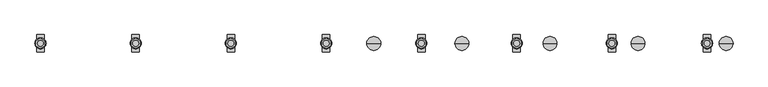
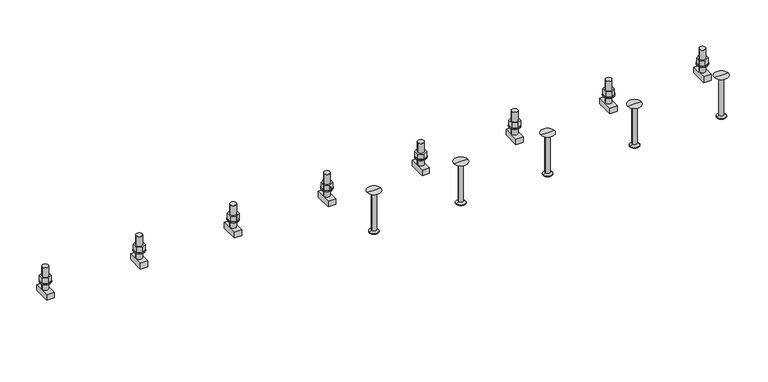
"""IFC4 building model written with IfcOpenShell, lengths in millimetres: fastener geometry, JTA-W JORDAHL® AnchorChannels : JTA-W L=3000 mm."""

from ifc_helpers import new_model, si_unit, point, frame, frame_2d, origin, place, context, project, spatial, polyline, circle_curve, trimmed, segment, composite_curve, outline, extrude, source, transform, mapped, element, save
from ifc_brep_helpers import plane_surface, cylinder_surface, revolved_surface, advanced_brep


def fastener_6b79ad14(model_context):
    return source(origin(), model_context, "Body", "SolidModel", [
        extrude(outline(polyline([(2608.3333333, 17.3205081), (2623.3333333, 8.660254), (2623.3333333, -8.660254), (2608.3333333, -17.3205081), (2593.3333333, -8.660254), (2593.3333333, 8.660254), (2608.3333333, 17.3205081)]), holes=[composite_curve([segment(trimmed(circle_curve(frame_2d((2608.3333333, 0.0)), 10.0), [point((2598.3333333, 0.0))], [point((2618.3333333, 0.0))], True, "CARTESIAN"), True, "CONTINUOUS"), segment(trimmed(circle_curve(frame_2d((2608.3333333, 0.0)), 10.0), [point((2618.3333333, 0.0))], [point((2598.3333333, 0.0))], True, "CARTESIAN"), True, "CONTINUOUS")], self_intersect=False)]), frame((0.0, 0.0, 18.0), z_axis=(0.0, 0.0, 1.0), x_axis=(1.0, 0.0, 0.0)), (0.0, 0.0, 1.0), 18.0),
        extrude(outline(composite_curve([segment(trimmed(circle_curve(frame_2d((2608.3333333, 0.0)), 18.5), [point((2589.8333333, 0.0))], [point((2626.8333333, 0.0))], False, "CARTESIAN"), True, "CONTINUOUS"), segment(trimmed(circle_curve(frame_2d((2608.3333333, 0.0)), 18.5), [point((2626.8333333, 0.0))], [point((2589.8333333, 0.0))], False, "CARTESIAN"), True, "CONTINUOUS")], self_intersect=False), holes=[composite_curve([segment(trimmed(circle_curve(frame_2d((2608.3333333, 0.0)), 10.5), [point((2597.8333333, 0.0))], [point((2618.8333333, 0.0))], True, "CARTESIAN"), True, "CONTINUOUS"), segment(trimmed(circle_curve(frame_2d((2608.3333333, 0.0)), 10.5), [point((2618.8333333, 0.0))], [point((2597.8333333, 0.0))], True, "CARTESIAN"), True, "CONTINUOUS")], self_intersect=False)]), frame((0.0, 0.0, 15.0), z_axis=(0.0, 0.0, 1.0), x_axis=(1.0, 0.0, 0.0)), (0.0, 0.0, 1.0), 3.0),
        extrude(outline(polyline([(2291.6666667, 17.3205081), (2306.6666667, 8.660254), (2306.6666667, -8.660254), (2291.6666667, -17.3205081), (2276.6666667, -8.660254), (2276.6666667, 8.660254), (2291.6666667, 17.3205081)]), holes=[composite_curve([segment(trimmed(circle_curve(frame_2d((2291.6666667, 0.0)), 10.0), [point((2281.6666667, 0.0))], [point((2301.6666667, 0.0))], True, "CARTESIAN"), True, "CONTINUOUS"), segment(trimmed(circle_curve(frame_2d((2291.6666667, 0.0)), 10.0), [point((2301.6666667, 0.0))], [point((2281.6666667, 0.0))], True, "CARTESIAN"), True, "CONTINUOUS")], self_intersect=False)]), frame((0.0, 0.0, 18.0), z_axis=(0.0, 0.0, 1.0), x_axis=(1.0, 0.0, 0.0)), (0.0, 0.0, 1.0), 18.0),
        extrude(outline(composite_curve([segment(trimmed(circle_curve(frame_2d((2291.6666667, 0.0)), 18.5), [point((2273.1666667, 0.0))], [point((2310.1666667, 0.0))], False, "CARTESIAN"), True, "CONTINUOUS"), segment(trimmed(circle_curve(frame_2d((2291.6666667, 0.0)), 18.5), [point((2310.1666667, 0.0))], [point((2273.1666667, 0.0))], False, "CARTESIAN"), True, "CONTINUOUS")], self_intersect=False), holes=[composite_curve([segment(trimmed(circle_curve(frame_2d((2291.6666667, 0.0)), 10.5), [point((2281.1666667, 0.0))], [point((2302.1666667, 0.0))], True, "CARTESIAN"), True, "CONTINUOUS"), segment(trimmed(circle_curve(frame_2d((2291.6666667, 0.0)), 10.5), [point((2302.1666667, 0.0))], [point((2281.1666667, 0.0))], True, "CARTESIAN"), True, "CONTINUOUS")], self_intersect=False)]), frame((0.0, 0.0, 15.0), z_axis=(0.0, 0.0, 1.0), x_axis=(1.0, 0.0, 0.0)), (0.0, 0.0, 1.0), 3.0),
        extrude(outline(polyline([(1975.0, 17.3205081), (1990.0, 8.660254), (1990.0, -8.660254), (1975.0, -17.3205081), (1960.0, -8.660254), (1960.0, 8.660254), (1975.0, 17.3205081)]), holes=[composite_curve([segment(trimmed(circle_curve(frame_2d((1975.0, 0.0)), 10.0), [point((1965.0, 0.0))], [point((1985.0, 0.0))], True, "CARTESIAN"), True, "CONTINUOUS"), segment(trimmed(circle_curve(frame_2d((1975.0, 0.0)), 10.0), [point((1985.0, 0.0))], [point((1965.0, 0.0))], True, "CARTESIAN"), True, "CONTINUOUS")], self_intersect=False)]), frame((0.0, 0.0, 18.0), z_axis=(0.0, 0.0, 1.0), x_axis=(1.0, 0.0, 0.0)), (0.0, 0.0, 1.0), 18.0),
        extrude(outline(composite_curve([segment(trimmed(circle_curve(frame_2d((1975.0, 0.0)), 18.5), [point((1956.5, 0.0))], [point((1993.5, 0.0))], False, "CARTESIAN"), True, "CONTINUOUS"), segment(trimmed(circle_curve(frame_2d((1975.0, 0.0)), 18.5), [point((1993.5, 0.0))], [point((1956.5, 0.0))], False, "CARTESIAN"), True, "CONTINUOUS")], self_intersect=False), holes=[composite_curve([segment(trimmed(circle_curve(frame_2d((1975.0, 0.0)), 10.5), [point((1964.5, 0.0))], [point((1985.5, 0.0))], True, "CARTESIAN"), True, "CONTINUOUS"), segment(trimmed(circle_curve(frame_2d((1975.0, 0.0)), 10.5), [point((1985.5, 0.0))], [point((1964.5, 0.0))], True, "CARTESIAN"), True, "CONTINUOUS")], self_intersect=False)]), frame((0.0, 0.0, 15.0), z_axis=(0.0, 0.0, 1.0), x_axis=(1.0, 0.0, 0.0)), (0.0, 0.0, 1.0), 3.0),
        extrude(outline(polyline([(1658.3333333, 17.3205081), (1673.3333333, 8.660254), (1673.3333333, -8.660254), (1658.3333333, -17.3205081), (1643.3333333, -8.660254), (1643.3333333, 8.660254), (1658.3333333, 17.3205081)]), holes=[composite_curve([segment(trimmed(circle_curve(frame_2d((1658.3333333, 0.0)), 10.0), [point((1648.3333333, 0.0))], [point((1668.3333333, 0.0))], True, "CARTESIAN"), True, "CONTINUOUS"), segment(trimmed(circle_curve(frame_2d((1658.3333333, 0.0)), 10.0), [point((1668.3333333, 0.0))], [point((1648.3333333, 0.0))], True, "CARTESIAN"), True, "CONTINUOUS")], self_intersect=False)]), frame((0.0, 0.0, 18.0), z_axis=(0.0, 0.0, 1.0), x_axis=(1.0, 0.0, 0.0)), (0.0, 0.0, 1.0), 18.0),
        extrude(outline(composite_curve([segment(trimmed(circle_curve(frame_2d((1658.3333333, 0.0)), 18.5), [point((1639.8333333, 0.0))], [point((1676.8333333, 0.0))], False, "CARTESIAN"), True, "CONTINUOUS"), segment(trimmed(circle_curve(frame_2d((1658.3333333, 0.0)), 18.5), [point((1676.8333333, 0.0))], [point((1639.8333333, 0.0))], False, "CARTESIAN"), True, "CONTINUOUS")], self_intersect=False), holes=[composite_curve([segment(trimmed(circle_curve(frame_2d((1658.3333333, 0.0)), 10.5), [point((1647.8333333, 0.0))], [point((1668.8333333, 0.0))], True, "CARTESIAN"), True, "CONTINUOUS"), segment(trimmed(circle_curve(frame_2d((1658.3333333, 0.0)), 10.5), [point((1668.8333333, 0.0))], [point((1647.8333333, 0.0))], True, "CARTESIAN"), True, "CONTINUOUS")], self_intersect=False)]), frame((0.0, 0.0, 15.0), z_axis=(0.0, 0.0, 1.0), x_axis=(1.0, 0.0, 0.0)), (0.0, 0.0, 1.0), 3.0),
        extrude(outline(polyline([(1341.6666667, 17.3205081), (1356.6666667, 8.660254), (1356.6666667, -8.660254), (1341.6666667, -17.3205081), (1326.6666667, -8.660254), (1326.6666667, 8.660254), (1341.6666667, 17.3205081)]), holes=[composite_curve([segment(trimmed(circle_curve(frame_2d((1341.6666667, 0.0)), 10.0), [point((1331.6666667, 0.0))], [point((1351.6666667, 0.0))], True, "CARTESIAN"), True, "CONTINUOUS"), segment(trimmed(circle_curve(frame_2d((1341.6666667, 0.0)), 10.0), [point((1351.6666667, 0.0))], [point((1331.6666667, 0.0))], True, "CARTESIAN"), True, "CONTINUOUS")], self_intersect=False)]), frame((0.0, 0.0, 18.0), z_axis=(0.0, 0.0, 1.0), x_axis=(1.0, 0.0, 0.0)), (0.0, 0.0, 1.0), 18.0),
        extrude(outline(composite_curve([segment(trimmed(circle_curve(frame_2d((1341.6666667, 0.0)), 18.5), [point((1323.1666667, 0.0))], [point((1360.1666667, 0.0))], False, "CARTESIAN"), True, "CONTINUOUS"), segment(trimmed(circle_curve(frame_2d((1341.6666667, 0.0)), 18.5), [point((1360.1666667, 0.0))], [point((1323.1666667, 0.0))], False, "CARTESIAN"), True, "CONTINUOUS")], self_intersect=False), holes=[composite_curve([segment(trimmed(circle_curve(frame_2d((1341.6666667, 0.0)), 10.5), [point((1331.1666667, 0.0))], [point((1352.1666667, 0.0))], True, "CARTESIAN"), True, "CONTINUOUS"), segment(trimmed(circle_curve(frame_2d((1341.6666667, 0.0)), 10.5), [point((1352.1666667, 0.0))], [point((1331.1666667, 0.0))], True, "CARTESIAN"), True, "CONTINUOUS")], self_intersect=False)]), frame((0.0, 0.0, 15.0), z_axis=(0.0, 0.0, 1.0), x_axis=(1.0, 0.0, 0.0)), (0.0, 0.0, 1.0), 3.0),
        extrude(outline(polyline([(1025.0, 17.3205081), (1040.0, 8.660254), (1040.0, -8.660254), (1025.0, -17.3205081), (1010.0, -8.660254), (1010.0, 8.660254), (1025.0, 17.3205081)]), holes=[composite_curve([segment(trimmed(circle_curve(frame_2d((1025.0, 0.0)), 10.0), [point((1015.0, 0.0))], [point((1035.0, 0.0))], True, "CARTESIAN"), True, "CONTINUOUS"), segment(trimmed(circle_curve(frame_2d((1025.0, 0.0)), 10.0), [point((1035.0, 0.0))], [point((1015.0, 0.0))], True, "CARTESIAN"), True, "CONTINUOUS")], self_intersect=False)]), frame((0.0, 0.0, 18.0), z_axis=(0.0, 0.0, 1.0), x_axis=(1.0, 0.0, 0.0)), (0.0, 0.0, 1.0), 18.0),
        extrude(outline(composite_curve([segment(trimmed(circle_curve(frame_2d((1025.0, 0.0)), 18.5), [point((1006.5, 0.0))], [point((1043.5, 0.0))], False, "CARTESIAN"), True, "CONTINUOUS"), segment(trimmed(circle_curve(frame_2d((1025.0, 0.0)), 18.5), [point((1043.5, 0.0))], [point((1006.5, 0.0))], False, "CARTESIAN"), True, "CONTINUOUS")], self_intersect=False), holes=[composite_curve([segment(trimmed(circle_curve(frame_2d((1025.0, 0.0)), 10.5), [point((1014.5, 0.0))], [point((1035.5, 0.0))], True, "CARTESIAN"), True, "CONTINUOUS"), segment(trimmed(circle_curve(frame_2d((1025.0, 0.0)), 10.5), [point((1035.5, 0.0))], [point((1014.5, 0.0))], True, "CARTESIAN"), True, "CONTINUOUS")], self_intersect=False)]), frame((0.0, 0.0, 15.0), z_axis=(0.0, 0.0, 1.0), x_axis=(1.0, 0.0, 0.0)), (0.0, 0.0, 1.0), 3.0),
        extrude(outline(polyline([(708.3333333, 17.3205081), (723.3333333, 8.660254), (723.3333333, -8.660254), (708.3333333, -17.3205081), (693.3333333, -8.660254), (693.3333333, 8.660254), (708.3333333, 17.3205081)]), holes=[composite_curve([segment(trimmed(circle_curve(frame_2d((708.3333333, 0.0)), 10.0), [point((698.3333333, 0.0))], [point((718.3333333, 0.0))], True, "CARTESIAN"), True, "CONTINUOUS"), segment(trimmed(circle_curve(frame_2d((708.3333333, 0.0)), 10.0), [point((718.3333333, 0.0))], [point((698.3333333, 0.0))], True, "CARTESIAN"), True, "CONTINUOUS")], self_intersect=False)]), frame((0.0, 0.0, 18.0), z_axis=(0.0, 0.0, 1.0), x_axis=(1.0, 0.0, 0.0)), (0.0, 0.0, 1.0), 18.0),
        extrude(outline(composite_curve([segment(trimmed(circle_curve(frame_2d((708.3333333, 0.0)), 18.5), [point((689.8333333, 0.0))], [point((726.8333333, 0.0))], False, "CARTESIAN"), True, "CONTINUOUS"), segment(trimmed(circle_curve(frame_2d((708.3333333, 0.0)), 18.5), [point((726.8333333, 0.0))], [point((689.8333333, 0.0))], False, "CARTESIAN"), True, "CONTINUOUS")], self_intersect=False), holes=[composite_curve([segment(trimmed(circle_curve(frame_2d((708.3333333, 0.0)), 10.5), [point((697.8333333, 0.0))], [point((718.8333333, 0.0))], True, "CARTESIAN"), True, "CONTINUOUS"), segment(trimmed(circle_curve(frame_2d((708.3333333, 0.0)), 10.5), [point((718.8333333, 0.0))], [point((697.8333333, 0.0))], True, "CARTESIAN"), True, "CONTINUOUS")], self_intersect=False)]), frame((0.0, 0.0, 15.0), z_axis=(0.0, 0.0, 1.0), x_axis=(1.0, 0.0, 0.0)), (0.0, 0.0, 1.0), 3.0),
        extrude(outline(polyline([(391.6666667, 17.3205081), (406.6666667, 8.660254), (406.6666667, -8.660254), (391.6666667, -17.3205081), (376.6666667, -8.660254), (376.6666667, 8.660254), (391.6666667, 17.3205081)]), holes=[composite_curve([segment(trimmed(circle_curve(frame_2d((391.6666667, 0.0)), 10.0), [point((381.6666667, 0.0))], [point((401.6666667, 0.0))], True, "CARTESIAN"), True, "CONTINUOUS"), segment(trimmed(circle_curve(frame_2d((391.6666667, 0.0)), 10.0), [point((401.6666667, 0.0))], [point((381.6666667, 0.0))], True, "CARTESIAN"), True, "CONTINUOUS")], self_intersect=False)]), frame((0.0, 0.0, 18.0), z_axis=(0.0, 0.0, 1.0), x_axis=(1.0, 0.0, 0.0)), (0.0, 0.0, 1.0), 18.0),
        extrude(outline(composite_curve([segment(trimmed(circle_curve(frame_2d((391.6666667, 0.0)), 18.5), [point((373.1666667, 0.0))], [point((410.1666667, 0.0))], False, "CARTESIAN"), True, "CONTINUOUS"), segment(trimmed(circle_curve(frame_2d((391.6666667, 0.0)), 18.5), [point((410.1666667, 0.0))], [point((373.1666667, 0.0))], False, "CARTESIAN"), True, "CONTINUOUS")], self_intersect=False), holes=[composite_curve([segment(trimmed(circle_curve(frame_2d((391.6666667, 0.0)), 10.5), [point((381.1666667, 0.0))], [point((402.1666667, 0.0))], True, "CARTESIAN"), True, "CONTINUOUS"), segment(trimmed(circle_curve(frame_2d((391.6666667, 0.0)), 10.5), [point((402.1666667, 0.0))], [point((381.1666667, 0.0))], True, "CARTESIAN"), True, "CONTINUOUS")], self_intersect=False)]), frame((0.0, 0.0, 15.0), z_axis=(0.0, 0.0, 1.0), x_axis=(1.0, 0.0, 0.0)), (0.0, 0.0, 1.0), 3.0),
        advanced_brep(
        [(2620.8333333, 29.0, -10.0), (2620.8333333, -29.0, -10.0), (2620.8333333, -29.0, -30.0), (2620.8333333, 29.0, -30.0), (2595.8333333, 29.0, -10.0), (2595.8333333, 29.0, -30.0), (2595.8333333, -29.0, -30.0), (2595.8333333, -29.0, -10.0), (2618.3333333, 0.0, -10.0), (2598.3333333, 0.0, -10.0), (2598.3333333, 0.0, 70.0), (2618.3333333, 0.0, 70.0)],
        [
            (0, 1),
            (1, 2),
            (2, 3),
            (3, 0),
            (4, 5),
            (5, 6),
            (6, 7),
            (7, 4),
            (0, 4),
            (7, 1),
            (8, 9, circle_curve(frame((2608.3333333, 0.0, -10.0), z_axis=(0.0, 0.0, -1.0), x_axis=(1.0, 0.0, 0.0)), 10.0)),
            (9, 8, circle_curve(frame((2608.3333333, 0.0, -10.0), z_axis=(0.0, 0.0, -1.0), x_axis=(1.0, 0.0, 0.0)), 10.0)),
            (6, 2),
            (5, 3),
            (10, 11, circle_curve(frame((2608.3333333, 0.0, 70.0), z_axis=(0.0, 0.0, 1.0), x_axis=(1.0, 0.0, 0.0)), 10.0)),
            (11, 10, circle_curve(frame((2608.3333333, 0.0, 70.0), z_axis=(0.0, 0.0, 1.0), x_axis=(1.0, 0.0, 0.0)), 10.0)),
            (10, 9),
            (8, 11),
        ],
        [
            plane_surface(frame((2620.8333333, -29.0, -10.0), z_axis=(1.0, 0.0, 0.0), x_axis=(0.0, -1.0, 0.0))),
            plane_surface(frame((2595.8333333, -29.0, -10.0), z_axis=(-1.0, 0.0, 0.0), x_axis=(0.0, 1.0, 0.0))),
            plane_surface(frame((2620.8333333, 29.0, -10.0), z_axis=(0.0, 0.0, 1.0), x_axis=(-1.0, 0.0, 0.0))),
            plane_surface(frame((2620.8333333, -29.0, -10.0), z_axis=(0.0, -1.0, 0.0), x_axis=(-1.0, 0.0, 0.0))),
            plane_surface(frame((2620.8333333, -29.0, -30.0), z_axis=(0.0, 0.0, -1.0), x_axis=(-1.0, 0.0, 0.0))),
            plane_surface(frame((2620.8333333, 29.0, -30.0), z_axis=(0.0, 1.0, 0.0), x_axis=(-1.0, 0.0, 0.0))),
            plane_surface(frame((2618.3333333, 0.0, 70.0), z_axis=(0.0, 0.0, 1.0), x_axis=(0.0, 1.0, 0.0))),
            cylinder_surface(frame((2608.3333333, 0.0, -10.0), z_axis=(0.0, 0.0, 1.0), x_axis=(1.0, 0.0, 0.0)), 10.0),
        ],
        [
            (0, [[1, 2, 3, 4]]),
            (1, [[5, 6, 7, 8]]),
            (2, [[-1, 9, -8, 10], [11, 12]]),
            (3, [[-2, -10, -7, 13]]),
            (4, [[-3, -13, -6, 14]]),
            (5, [[-4, -14, -5, -9]]),
            (6, [[15, 16]]),
            (7, [[-15, 17, -11, 18]]),
            (7, [[-16, -18, -12, -17]]),
        ],
    ),
        advanced_brep(
        [(2304.1666667, 29.0, -10.0), (2304.1666667, -29.0, -10.0), (2304.1666667, -29.0, -30.0), (2304.1666667, 29.0, -30.0), (2279.1666667, 29.0, -10.0), (2279.1666667, 29.0, -30.0), (2279.1666667, -29.0, -30.0), (2279.1666667, -29.0, -10.0), (2301.6666667, 0.0, -10.0), (2281.6666667, 0.0, -10.0), (2281.6666667, 0.0, 70.0), (2301.6666667, 0.0, 70.0)],
        [
            (0, 1),
            (1, 2),
            (2, 3),
            (3, 0),
            (4, 5),
            (5, 6),
            (6, 7),
            (7, 4),
            (0, 4),
            (7, 1),
            (8, 9, circle_curve(frame((2291.6666667, 0.0, -10.0), z_axis=(0.0, 0.0, -1.0), x_axis=(1.0, 0.0, 0.0)), 10.0)),
            (9, 8, circle_curve(frame((2291.6666667, 0.0, -10.0), z_axis=(0.0, 0.0, -1.0), x_axis=(1.0, 0.0, 0.0)), 10.0)),
            (6, 2),
            (5, 3),
            (10, 11, circle_curve(frame((2291.6666667, 0.0, 70.0), z_axis=(0.0, 0.0, 1.0), x_axis=(1.0, 0.0, 0.0)), 10.0)),
            (11, 10, circle_curve(frame((2291.6666667, 0.0, 70.0), z_axis=(0.0, 0.0, 1.0), x_axis=(1.0, 0.0, 0.0)), 10.0)),
            (10, 9),
            (8, 11),
        ],
        [
            plane_surface(frame((2304.1666667, -29.0, -10.0), z_axis=(1.0, 0.0, 0.0), x_axis=(0.0, -1.0, 0.0))),
            plane_surface(frame((2279.1666667, -29.0, -10.0), z_axis=(-1.0, 0.0, 0.0), x_axis=(0.0, 1.0, 0.0))),
            plane_surface(frame((2304.1666667, 29.0, -10.0), z_axis=(0.0, 0.0, 1.0), x_axis=(-1.0, 0.0, 0.0))),
            plane_surface(frame((2304.1666667, -29.0, -10.0), z_axis=(0.0, -1.0, 0.0), x_axis=(-1.0, 0.0, 0.0))),
            plane_surface(frame((2304.1666667, -29.0, -30.0), z_axis=(0.0, 0.0, -1.0), x_axis=(-1.0, 0.0, 0.0))),
            plane_surface(frame((2304.1666667, 29.0, -30.0), z_axis=(0.0, 1.0, 0.0), x_axis=(-1.0, 0.0, 0.0))),
            plane_surface(frame((2301.6666667, 0.0, 70.0), z_axis=(0.0, 0.0, 1.0), x_axis=(0.0, 1.0, 0.0))),
            cylinder_surface(frame((2291.6666667, 0.0, -10.0), z_axis=(0.0, 0.0, 1.0), x_axis=(1.0, 0.0, 0.0)), 10.0),
        ],
        [
            (0, [[1, 2, 3, 4]]),
            (1, [[5, 6, 7, 8]]),
            (2, [[-1, 9, -8, 10], [11, 12]]),
            (3, [[-2, -10, -7, 13]]),
            (4, [[-3, -13, -6, 14]]),
            (5, [[-4, -14, -5, -9]]),
            (6, [[15, 16]]),
            (7, [[-15, 17, -11, 18]]),
            (7, [[-16, -18, -12, -17]]),
        ],
    ),
        advanced_brep(
        [(1987.5, 29.0, -10.0), (1987.5, -29.0, -10.0), (1987.5, -29.0, -30.0), (1987.5, 29.0, -30.0), (1962.5, 29.0, -10.0), (1962.5, 29.0, -30.0), (1962.5, -29.0, -30.0), (1962.5, -29.0, -10.0), (1985.0, 0.0, -10.0), (1965.0, 0.0, -10.0), (1965.0, 0.0, 70.0), (1985.0, 0.0, 70.0)],
        [
            (0, 1),
            (1, 2),
            (2, 3),
            (3, 0),
            (4, 5),
            (5, 6),
            (6, 7),
            (7, 4),
            (0, 4),
            (7, 1),
            (8, 9, circle_curve(frame((1975.0, 0.0, -10.0), z_axis=(0.0, 0.0, -1.0), x_axis=(1.0, 0.0, 0.0)), 10.0)),
            (9, 8, circle_curve(frame((1975.0, 0.0, -10.0), z_axis=(0.0, 0.0, -1.0), x_axis=(1.0, 0.0, 0.0)), 10.0)),
            (6, 2),
            (5, 3),
            (10, 11, circle_curve(frame((1975.0, 0.0, 70.0), z_axis=(0.0, 0.0, 1.0), x_axis=(1.0, 0.0, 0.0)), 10.0)),
            (11, 10, circle_curve(frame((1975.0, 0.0, 70.0), z_axis=(0.0, 0.0, 1.0), x_axis=(1.0, 0.0, 0.0)), 10.0)),
            (10, 9),
            (8, 11),
        ],
        [
            plane_surface(frame((1987.5, -29.0, -10.0), z_axis=(1.0, 0.0, 0.0), x_axis=(0.0, -1.0, 0.0))),
            plane_surface(frame((1962.5, -29.0, -10.0), z_axis=(-1.0, 0.0, 0.0), x_axis=(0.0, 1.0, 0.0))),
            plane_surface(frame((1987.5, 29.0, -10.0), z_axis=(0.0, 0.0, 1.0), x_axis=(-1.0, 0.0, 0.0))),
            plane_surface(frame((1987.5, -29.0, -10.0), z_axis=(0.0, -1.0, 0.0), x_axis=(-1.0, 0.0, 0.0))),
            plane_surface(frame((1987.5, -29.0, -30.0), z_axis=(0.0, 0.0, -1.0), x_axis=(-1.0, 0.0, 0.0))),
            plane_surface(frame((1987.5, 29.0, -30.0), z_axis=(0.0, 1.0, 0.0), x_axis=(-1.0, 0.0, 0.0))),
            plane_surface(frame((1985.0, 0.0, 70.0), z_axis=(0.0, 0.0, 1.0), x_axis=(0.0, 1.0, 0.0))),
            cylinder_surface(frame((1975.0, 0.0, -10.0), z_axis=(0.0, 0.0, 1.0), x_axis=(1.0, 0.0, 0.0)), 10.0),
        ],
        [
            (0, [[1, 2, 3, 4]]),
            (1, [[5, 6, 7, 8]]),
            (2, [[-1, 9, -8, 10], [11, 12]]),
            (3, [[-2, -10, -7, 13]]),
            (4, [[-3, -13, -6, 14]]),
            (5, [[-4, -14, -5, -9]]),
            (6, [[15, 16]]),
            (7, [[-15, 17, -11, 18]]),
            (7, [[-16, -18, -12, -17]]),
        ],
    ),
        advanced_brep(
        [(1670.8333333, 29.0, -10.0), (1670.8333333, -29.0, -10.0), (1670.8333333, -29.0, -30.0), (1670.8333333, 29.0, -30.0), (1645.8333333, 29.0, -10.0), (1645.8333333, 29.0, -30.0), (1645.8333333, -29.0, -30.0), (1645.8333333, -29.0, -10.0), (1668.3333333, 0.0, -10.0), (1648.3333333, 0.0, -10.0), (1648.3333333, 0.0, 70.0), (1668.3333333, 0.0, 70.0)],
        [
            (0, 1),
            (1, 2),
            (2, 3),
            (3, 0),
            (4, 5),
            (5, 6),
            (6, 7),
            (7, 4),
            (0, 4),
            (7, 1),
            (8, 9, circle_curve(frame((1658.3333333, 0.0, -10.0), z_axis=(0.0, 0.0, -1.0), x_axis=(1.0, 0.0, 0.0)), 10.0)),
            (9, 8, circle_curve(frame((1658.3333333, 0.0, -10.0), z_axis=(0.0, 0.0, -1.0), x_axis=(1.0, 0.0, 0.0)), 10.0)),
            (6, 2),
            (5, 3),
            (10, 11, circle_curve(frame((1658.3333333, 0.0, 70.0), z_axis=(0.0, 0.0, 1.0), x_axis=(1.0, 0.0, 0.0)), 10.0)),
            (11, 10, circle_curve(frame((1658.3333333, 0.0, 70.0), z_axis=(0.0, 0.0, 1.0), x_axis=(1.0, 0.0, 0.0)), 10.0)),
            (10, 9),
            (8, 11),
        ],
        [
            plane_surface(frame((1670.8333333, -29.0, -10.0), z_axis=(1.0, 0.0, 0.0), x_axis=(0.0, -1.0, 0.0))),
            plane_surface(frame((1645.8333333, -29.0, -10.0), z_axis=(-1.0, 0.0, 0.0), x_axis=(0.0, 1.0, 0.0))),
            plane_surface(frame((1670.8333333, 29.0, -10.0), z_axis=(0.0, 0.0, 1.0), x_axis=(-1.0, 0.0, 0.0))),
            plane_surface(frame((1670.8333333, -29.0, -10.0), z_axis=(0.0, -1.0, 0.0), x_axis=(-1.0, 0.0, 0.0))),
            plane_surface(frame((1670.8333333, -29.0, -30.0), z_axis=(0.0, 0.0, -1.0), x_axis=(-1.0, 0.0, 0.0))),
            plane_surface(frame((1670.8333333, 29.0, -30.0), z_axis=(0.0, 1.0, 0.0), x_axis=(-1.0, 0.0, 0.0))),
            plane_surface(frame((1668.3333333, 0.0, 70.0), z_axis=(0.0, 0.0, 1.0), x_axis=(0.0, 1.0, 0.0))),
            cylinder_surface(frame((1658.3333333, 0.0, -10.0), z_axis=(0.0, 0.0, 1.0), x_axis=(1.0, 0.0, 0.0)), 10.0),
        ],
        [
            (0, [[1, 2, 3, 4]]),
            (1, [[5, 6, 7, 8]]),
            (2, [[-1, 9, -8, 10], [11, 12]]),
            (3, [[-2, -10, -7, 13]]),
            (4, [[-3, -13, -6, 14]]),
            (5, [[-4, -14, -5, -9]]),
            (6, [[15, 16]]),
            (7, [[-15, 17, -11, 18]]),
            (7, [[-16, -18, -12, -17]]),
        ],
    ),
        advanced_brep(
        [(1354.1666667, 29.0, -10.0), (1354.1666667, -29.0, -10.0), (1354.1666667, -29.0, -30.0), (1354.1666667, 29.0, -30.0), (1329.1666667, 29.0, -10.0), (1329.1666667, 29.0, -30.0), (1329.1666667, -29.0, -30.0), (1329.1666667, -29.0, -10.0), (1351.6666667, 0.0, -10.0), (1331.6666667, 0.0, -10.0), (1331.6666667, 0.0, 70.0), (1351.6666667, 0.0, 70.0)],
        [
            (0, 1),
            (1, 2),
            (2, 3),
            (3, 0),
            (4, 5),
            (5, 6),
            (6, 7),
            (7, 4),
            (0, 4),
            (7, 1),
            (8, 9, circle_curve(frame((1341.6666667, 0.0, -10.0), z_axis=(0.0, 0.0, -1.0), x_axis=(1.0, 0.0, 0.0)), 10.0)),
            (9, 8, circle_curve(frame((1341.6666667, 0.0, -10.0), z_axis=(0.0, 0.0, -1.0), x_axis=(1.0, 0.0, 0.0)), 10.0)),
            (6, 2),
            (5, 3),
            (10, 11, circle_curve(frame((1341.6666667, 0.0, 70.0), z_axis=(0.0, 0.0, 1.0), x_axis=(1.0, 0.0, 0.0)), 10.0)),
            (11, 10, circle_curve(frame((1341.6666667, 0.0, 70.0), z_axis=(0.0, 0.0, 1.0), x_axis=(1.0, 0.0, 0.0)), 10.0)),
            (10, 9),
            (8, 11),
        ],
        [
            plane_surface(frame((1354.1666667, -29.0, -10.0), z_axis=(1.0, 0.0, 0.0), x_axis=(0.0, -1.0, 0.0))),
            plane_surface(frame((1329.1666667, -29.0, -10.0), z_axis=(-1.0, 0.0, 0.0), x_axis=(0.0, 1.0, 0.0))),
            plane_surface(frame((1354.1666667, 29.0, -10.0), z_axis=(0.0, 0.0, 1.0), x_axis=(-1.0, 0.0, 0.0))),
            plane_surface(frame((1354.1666667, -29.0, -10.0), z_axis=(0.0, -1.0, 0.0), x_axis=(-1.0, 0.0, 0.0))),
            plane_surface(frame((1354.1666667, -29.0, -30.0), z_axis=(0.0, 0.0, -1.0), x_axis=(-1.0, 0.0, 0.0))),
            plane_surface(frame((1354.1666667, 29.0, -30.0), z_axis=(0.0, 1.0, 0.0), x_axis=(-1.0, 0.0, 0.0))),
            plane_surface(frame((1351.6666667, 0.0, 70.0), z_axis=(0.0, 0.0, 1.0), x_axis=(0.0, 1.0, 0.0))),
            cylinder_surface(frame((1341.6666667, 0.0, -10.0), z_axis=(0.0, 0.0, 1.0), x_axis=(1.0, 0.0, 0.0)), 10.0),
        ],
        [
            (0, [[1, 2, 3, 4]]),
            (1, [[5, 6, 7, 8]]),
            (2, [[-1, 9, -8, 10], [11, 12]]),
            (3, [[-2, -10, -7, 13]]),
            (4, [[-3, -13, -6, 14]]),
            (5, [[-4, -14, -5, -9]]),
            (6, [[15, 16]]),
            (7, [[-15, 17, -11, 18]]),
            (7, [[-16, -18, -12, -17]]),
        ],
    ),
        advanced_brep(
        [(1037.5, 29.0, -10.0), (1037.5, -29.0, -10.0), (1037.5, -29.0, -30.0), (1037.5, 29.0, -30.0), (1012.5, 29.0, -10.0), (1012.5, 29.0, -30.0), (1012.5, -29.0, -30.0), (1012.5, -29.0, -10.0), (1035.0, 0.0, -10.0), (1015.0, 0.0, -10.0), (1015.0, 0.0, 70.0), (1035.0, 0.0, 70.0)],
        [
            (0, 1),
            (1, 2),
            (2, 3),
            (3, 0),
            (4, 5),
            (5, 6),
            (6, 7),
            (7, 4),
            (0, 4),
            (7, 1),
            (8, 9, circle_curve(frame((1025.0, 0.0, -10.0), z_axis=(0.0, 0.0, -1.0), x_axis=(1.0, 0.0, 0.0)), 10.0)),
            (9, 8, circle_curve(frame((1025.0, 0.0, -10.0), z_axis=(0.0, 0.0, -1.0), x_axis=(1.0, 0.0, 0.0)), 10.0)),
            (6, 2),
            (5, 3),
            (10, 11, circle_curve(frame((1025.0, 0.0, 70.0), z_axis=(0.0, 0.0, 1.0), x_axis=(1.0, 0.0, 0.0)), 10.0)),
            (11, 10, circle_curve(frame((1025.0, 0.0, 70.0), z_axis=(0.0, 0.0, 1.0), x_axis=(1.0, 0.0, 0.0)), 10.0)),
            (10, 9),
            (8, 11),
        ],
        [
            plane_surface(frame((1037.5, -29.0, -10.0), z_axis=(1.0, 0.0, 0.0), x_axis=(0.0, -1.0, 0.0))),
            plane_surface(frame((1012.5, -29.0, -10.0), z_axis=(-1.0, 0.0, 0.0), x_axis=(0.0, 1.0, 0.0))),
            plane_surface(frame((1037.5, 29.0, -10.0), z_axis=(0.0, 0.0, 1.0), x_axis=(-1.0, 0.0, 0.0))),
            plane_surface(frame((1037.5, -29.0, -10.0), z_axis=(0.0, -1.0, 0.0), x_axis=(-1.0, 0.0, 0.0))),
            plane_surface(frame((1037.5, -29.0, -30.0), z_axis=(0.0, 0.0, -1.0), x_axis=(-1.0, 0.0, 0.0))),
            plane_surface(frame((1037.5, 29.0, -30.0), z_axis=(0.0, 1.0, 0.0), x_axis=(-1.0, 0.0, 0.0))),
            plane_surface(frame((1035.0, 0.0, 70.0), z_axis=(0.0, 0.0, 1.0), x_axis=(0.0, 1.0, 0.0))),
            cylinder_surface(frame((1025.0, 0.0, -10.0), z_axis=(0.0, 0.0, 1.0), x_axis=(1.0, 0.0, 0.0)), 10.0),
        ],
        [
            (0, [[1, 2, 3, 4]]),
            (1, [[5, 6, 7, 8]]),
            (2, [[-1, 9, -8, 10], [11, 12]]),
            (3, [[-2, -10, -7, 13]]),
            (4, [[-3, -13, -6, 14]]),
            (5, [[-4, -14, -5, -9]]),
            (6, [[15, 16]]),
            (7, [[-15, 17, -11, 18]]),
            (7, [[-16, -18, -12, -17]]),
        ],
    ),
        advanced_brep(
        [(720.8333333, 29.0, -10.0), (720.8333333, -29.0, -10.0), (720.8333333, -29.0, -30.0), (720.8333333, 29.0, -30.0), (695.8333333, 29.0, -10.0), (695.8333333, 29.0, -30.0), (695.8333333, -29.0, -30.0), (695.8333333, -29.0, -10.0), (718.3333333, 0.0, -10.0), (698.3333333, 0.0, -10.0), (698.3333333, 0.0, 70.0), (718.3333333, 0.0, 70.0)],
        [
            (0, 1),
            (1, 2),
            (2, 3),
            (3, 0),
            (4, 5),
            (5, 6),
            (6, 7),
            (7, 4),
            (0, 4),
            (7, 1),
            (8, 9, circle_curve(frame((708.3333333, 0.0, -10.0), z_axis=(0.0, 0.0, -1.0), x_axis=(1.0, 0.0, 0.0)), 10.0)),
            (9, 8, circle_curve(frame((708.3333333, 0.0, -10.0), z_axis=(0.0, 0.0, -1.0), x_axis=(1.0, 0.0, 0.0)), 10.0)),
            (6, 2),
            (5, 3),
            (10, 11, circle_curve(frame((708.3333333, 0.0, 70.0), z_axis=(0.0, 0.0, 1.0), x_axis=(1.0, 0.0, 0.0)), 10.0)),
            (11, 10, circle_curve(frame((708.3333333, 0.0, 70.0), z_axis=(0.0, 0.0, 1.0), x_axis=(1.0, 0.0, 0.0)), 10.0)),
            (10, 9),
            (8, 11),
        ],
        [
            plane_surface(frame((720.8333333, -29.0, -10.0), z_axis=(1.0, 0.0, 0.0), x_axis=(0.0, -1.0, 0.0))),
            plane_surface(frame((695.8333333, -29.0, -10.0), z_axis=(-1.0, 0.0, 0.0), x_axis=(0.0, 1.0, 0.0))),
            plane_surface(frame((720.8333333, 29.0, -10.0), z_axis=(0.0, 0.0, 1.0), x_axis=(-1.0, 0.0, 0.0))),
            plane_surface(frame((720.8333333, -29.0, -10.0), z_axis=(0.0, -1.0, 0.0), x_axis=(-1.0, 0.0, 0.0))),
            plane_surface(frame((720.8333333, -29.0, -30.0), z_axis=(0.0, 0.0, -1.0), x_axis=(-1.0, 0.0, 0.0))),
            plane_surface(frame((720.8333333, 29.0, -30.0), z_axis=(0.0, 1.0, 0.0), x_axis=(-1.0, 0.0, 0.0))),
            plane_surface(frame((718.3333333, 0.0, 70.0), z_axis=(0.0, 0.0, 1.0), x_axis=(0.0, 1.0, 0.0))),
            cylinder_surface(frame((708.3333333, 0.0, -10.0), z_axis=(0.0, 0.0, 1.0), x_axis=(1.0, 0.0, 0.0)), 10.0),
        ],
        [
            (0, [[1, 2, 3, 4]]),
            (1, [[5, 6, 7, 8]]),
            (2, [[-1, 9, -8, 10], [11, 12]]),
            (3, [[-2, -10, -7, 13]]),
            (4, [[-3, -13, -6, 14]]),
            (5, [[-4, -14, -5, -9]]),
            (6, [[15, 16]]),
            (7, [[-15, 17, -11, 18]]),
            (7, [[-16, -18, -12, -17]]),
        ],
    ),
        advanced_brep(
        [(404.1666667, 29.0, -10.0), (404.1666667, -29.0, -10.0), (404.1666667, -29.0, -30.0), (404.1666667, 29.0, -30.0), (379.1666667, 29.0, -10.0), (379.1666667, 29.0, -30.0), (379.1666667, -29.0, -30.0), (379.1666667, -29.0, -10.0), (401.6666667, 0.0, -10.0), (381.6666667, 0.0, -10.0), (381.6666667, 0.0, 70.0), (401.6666667, 0.0, 70.0)],
        [
            (0, 1),
            (1, 2),
            (2, 3),
            (3, 0),
            (4, 5),
            (5, 6),
            (6, 7),
            (7, 4),
            (0, 4),
            (7, 1),
            (8, 9, circle_curve(frame((391.6666667, 0.0, -10.0), z_axis=(0.0, 0.0, -1.0), x_axis=(1.0, 0.0, 0.0)), 10.0)),
            (9, 8, circle_curve(frame((391.6666667, 0.0, -10.0), z_axis=(0.0, 0.0, -1.0), x_axis=(1.0, 0.0, 0.0)), 10.0)),
            (6, 2),
            (5, 3),
            (10, 11, circle_curve(frame((391.6666667, 0.0, 70.0), z_axis=(0.0, 0.0, 1.0), x_axis=(1.0, 0.0, 0.0)), 10.0)),
            (11, 10, circle_curve(frame((391.6666667, 0.0, 70.0), z_axis=(0.0, 0.0, 1.0), x_axis=(1.0, 0.0, 0.0)), 10.0)),
            (10, 9),
            (8, 11),
        ],
        [
            plane_surface(frame((404.1666667, -29.0, -10.0), z_axis=(1.0, 0.0, 0.0), x_axis=(0.0, -1.0, 0.0))),
            plane_surface(frame((379.1666667, -29.0, -10.0), z_axis=(-1.0, 0.0, 0.0), x_axis=(0.0, 1.0, 0.0))),
            plane_surface(frame((404.1666667, 29.0, -10.0), z_axis=(0.0, 0.0, 1.0), x_axis=(-1.0, 0.0, 0.0))),
            plane_surface(frame((404.1666667, -29.0, -10.0), z_axis=(0.0, -1.0, 0.0), x_axis=(-1.0, 0.0, 0.0))),
            plane_surface(frame((404.1666667, -29.0, -30.0), z_axis=(0.0, 0.0, -1.0), x_axis=(-1.0, 0.0, 0.0))),
            plane_surface(frame((404.1666667, 29.0, -30.0), z_axis=(0.0, 1.0, 0.0), x_axis=(-1.0, 0.0, 0.0))),
            plane_surface(frame((401.6666667, 0.0, 70.0), z_axis=(0.0, 0.0, 1.0), x_axis=(0.0, 1.0, 0.0))),
            cylinder_surface(frame((391.6666667, 0.0, -10.0), z_axis=(0.0, 0.0, 1.0), x_axis=(1.0, 0.0, 0.0)), 10.0),
        ],
        [
            (0, [[1, 2, 3, 4]]),
            (1, [[5, 6, 7, 8]]),
            (2, [[-1, 9, -8, 10], [11, 12]]),
            (3, [[-2, -10, -7, 13]]),
            (4, [[-3, -13, -6, 14]]),
            (5, [[-4, -14, -5, -9]]),
            (6, [[15, 16]]),
            (7, [[-15, 17, -11, 18]]),
            (7, [[-16, -18, -12, -17]]),
        ],
    ),
        advanced_brep(
        [(2672.0, 0.0, -48.0), (2695.0, 0.0, -48.0), (2649.0, 0.0, -48.0), (2656.5, 0.0, -195.0), (2687.5, 0.0, -195.0), (2672.0, 0.0, -195.0), (2656.5, 0.0, -193.0), (2687.5, 0.0, -193.0), (2664.2, 0.0, -188.5544029), (2679.8, 0.0, -188.5544029), (2664.2, 0.0, -52.0), (2679.8, 0.0, -52.0)],
        [
            (0, 1),
            (1, 2, circle_curve(frame((2672.0, 0.0, -48.0), z_axis=(0.0, 0.0, 1.0), x_axis=(1.0, 0.0, 0.0)), 23.0)),
            (2, 0),
            (2, 1, circle_curve(frame((2672.0, 0.0, -48.0), z_axis=(0.0, 0.0, 1.0), x_axis=(1.0, 0.0, 0.0)), 23.0)),
            (3, 4, circle_curve(frame((2672.0, 0.0, -195.0), z_axis=(0.0, 0.0, -1.0), x_axis=(1.0, 0.0, 0.0)), 15.5)),
            (4, 5),
            (5, 3),
            (4, 3, circle_curve(frame((2672.0, 0.0, -195.0), z_axis=(0.0, 0.0, -1.0), x_axis=(1.0, 0.0, 0.0)), 15.5)),
            (6, 7, circle_curve(frame((2672.0, 0.0, -193.0), z_axis=(0.0, 0.0, -1.0), x_axis=(1.0, 0.0, 0.0)), 15.5)),
            (7, 4),
            (3, 6),
            (7, 6, circle_curve(frame((2672.0, 0.0, -193.0), z_axis=(0.0, 0.0, -1.0), x_axis=(1.0, 0.0, 0.0)), 15.5)),
            (8, 9, circle_curve(frame((2672.0, 0.0, -188.5544029), z_axis=(0.0, 0.0, -1.0), x_axis=(1.0, 0.0, 0.0)), 7.8)),
            (9, 7),
            (6, 8),
            (9, 8, circle_curve(frame((2672.0, 0.0, -188.5544029), z_axis=(0.0, 0.0, -1.0), x_axis=(1.0, 0.0, 0.0)), 7.8)),
            (10, 11, circle_curve(frame((2672.0, 0.0, -52.0), z_axis=(0.0, 0.0, -1.0), x_axis=(1.0, 0.0, 0.0)), 7.8)),
            (11, 9),
            (8, 10),
            (11, 10, circle_curve(frame((2672.0, 0.0, -52.0), z_axis=(0.0, 0.0, -1.0), x_axis=(1.0, 0.0, 0.0)), 7.8)),
            (1, 11),
            (10, 2),
        ],
        [
            plane_surface(frame((2672.0, 0.0, -48.0), z_axis=(0.0, 0.0, 1.0), x_axis=(1.0, 0.0, 0.0))),
            plane_surface(frame((2672.0, 0.0, -195.0), z_axis=(0.0, 0.0, -1.0), x_axis=(1.0, 0.0, 0.0))),
            cylinder_surface(frame((2672.0, 0.0, 2361.3150031), z_axis=(0.0, 0.0, 1.0), x_axis=(1.0, 0.0, 0.0)), 15.5),
            revolved_surface(polyline([(2687.5, 0.0, -193.0), (2679.8, 0.0, -188.5544029)]), (2672.0, 0.0, 2361.3150031), (0.0, 0.0, 1.0)),
            cylinder_surface(frame((2672.0, 0.0, 2361.3150031), z_axis=(0.0, 0.0, 1.0), x_axis=(1.0, 0.0, 0.0)), 7.8),
            revolved_surface(polyline([(2679.8, 0.0, -52.0), (2695.0, 0.0, -48.0)]), (2672.0, 0.0, 2361.3150031), (0.0, 0.0, 1.0)),
        ],
        [
            (0, [[1, 2, 3]]),
            (0, [[-3, 4, -1]]),
            (1, [[5, 6, 7]]),
            (1, [[8, -7, -6]]),
            (2, [[9, 10, -5, 11]]),
            (2, [[12, -11, -8, -10]]),
            (3, [[13, 14, -9, 15]]),
            (3, [[16, -15, -12, -14]]),
            (4, [[17, 18, -13, 19]]),
            (4, [[20, -19, -16, -18]]),
            (5, [[-2, 21, -17, 22]]),
            (5, [[-4, -22, -20, -21]]),
        ],
    ),
        advanced_brep(
        [(2379.0, 0.0, -48.0), (2402.0, 0.0, -48.0), (2356.0, 0.0, -48.0), (2363.5, 0.0, -195.0), (2394.5, 0.0, -195.0), (2379.0, 0.0, -195.0), (2363.5, 0.0, -193.0), (2394.5, 0.0, -193.0), (2371.2, 0.0, -188.5544029), (2386.8, 0.0, -188.5544029), (2371.2, 0.0, -52.0), (2386.8, 0.0, -52.0)],
        [
            (0, 1),
            (1, 2, circle_curve(frame((2379.0, 0.0, -48.0), z_axis=(0.0, 0.0, 1.0), x_axis=(1.0, 0.0, 0.0)), 23.0)),
            (2, 0),
            (2, 1, circle_curve(frame((2379.0, 0.0, -48.0), z_axis=(0.0, 0.0, 1.0), x_axis=(1.0, 0.0, 0.0)), 23.0)),
            (3, 4, circle_curve(frame((2379.0, 0.0, -195.0), z_axis=(0.0, 0.0, -1.0), x_axis=(1.0, 0.0, 0.0)), 15.5)),
            (4, 5),
            (5, 3),
            (4, 3, circle_curve(frame((2379.0, 0.0, -195.0), z_axis=(0.0, 0.0, -1.0), x_axis=(1.0, 0.0, 0.0)), 15.5)),
            (6, 7, circle_curve(frame((2379.0, 0.0, -193.0), z_axis=(0.0, 0.0, -1.0), x_axis=(1.0, 0.0, 0.0)), 15.5)),
            (7, 4),
            (3, 6),
            (7, 6, circle_curve(frame((2379.0, 0.0, -193.0), z_axis=(0.0, 0.0, -1.0), x_axis=(1.0, 0.0, 0.0)), 15.5)),
            (8, 9, circle_curve(frame((2379.0, 0.0, -188.5544029), z_axis=(0.0, 0.0, -1.0), x_axis=(1.0, 0.0, 0.0)), 7.8)),
            (9, 7),
            (6, 8),
            (9, 8, circle_curve(frame((2379.0, 0.0, -188.5544029), z_axis=(0.0, 0.0, -1.0), x_axis=(1.0, 0.0, 0.0)), 7.8)),
            (10, 11, circle_curve(frame((2379.0, 0.0, -52.0), z_axis=(0.0, 0.0, -1.0), x_axis=(1.0, 0.0, 0.0)), 7.8)),
            (11, 9),
            (8, 10),
            (11, 10, circle_curve(frame((2379.0, 0.0, -52.0), z_axis=(0.0, 0.0, -1.0), x_axis=(1.0, 0.0, 0.0)), 7.8)),
            (1, 11),
            (10, 2),
        ],
        [
            plane_surface(frame((2379.0, 0.0, -48.0), z_axis=(0.0, 0.0, 1.0), x_axis=(1.0, 0.0, 0.0))),
            plane_surface(frame((2379.0, 0.0, -195.0), z_axis=(0.0, 0.0, -1.0), x_axis=(1.0, 0.0, 0.0))),
            cylinder_surface(frame((2379.0, 0.0, 2361.3150031), z_axis=(0.0, 0.0, 1.0), x_axis=(1.0, 0.0, 0.0)), 15.5),
            revolved_surface(polyline([(2394.5, 0.0, -193.0), (2386.8, 0.0, -188.5544029)]), (2379.0, 0.0, 2361.3150031), (0.0, 0.0, 1.0)),
            cylinder_surface(frame((2379.0, 0.0, 2361.3150031), z_axis=(0.0, 0.0, 1.0), x_axis=(1.0, 0.0, 0.0)), 7.8),
            revolved_surface(polyline([(2386.8, 0.0, -52.0), (2402.0, 0.0, -48.0)]), (2379.0, 0.0, 2361.3150031), (0.0, 0.0, 1.0)),
        ],
        [
            (0, [[1, 2, 3]]),
            (0, [[-3, 4, -1]]),
            (1, [[5, 6, 7]]),
            (1, [[8, -7, -6]]),
            (2, [[9, 10, -5, 11]]),
            (2, [[12, -11, -8, -10]]),
            (3, [[13, 14, -9, 15]]),
            (3, [[16, -15, -12, -14]]),
            (4, [[17, 18, -13, 19]]),
            (4, [[20, -19, -16, -18]]),
            (5, [[-2, 21, -17, 22]]),
            (5, [[-4, -22, -20, -21]]),
        ],
    ),
        advanced_brep(
        [(2086.0, 0.0, -48.0), (2109.0, 0.0, -48.0), (2063.0, 0.0, -48.0), (2070.5, 0.0, -195.0), (2101.5, 0.0, -195.0), (2086.0, 0.0, -195.0), (2070.5, 0.0, -193.0), (2101.5, 0.0, -193.0), (2078.2, 0.0, -188.5544029), (2093.8, 0.0, -188.5544029), (2078.2, 0.0, -52.0), (2093.8, 0.0, -52.0)],
        [
            (0, 1),
            (1, 2, circle_curve(frame((2086.0, 0.0, -48.0), z_axis=(0.0, 0.0, 1.0), x_axis=(1.0, 0.0, 0.0)), 23.0)),
            (2, 0),
            (2, 1, circle_curve(frame((2086.0, 0.0, -48.0), z_axis=(0.0, 0.0, 1.0), x_axis=(1.0, 0.0, 0.0)), 23.0)),
            (3, 4, circle_curve(frame((2086.0, 0.0, -195.0), z_axis=(0.0, 0.0, -1.0), x_axis=(1.0, 0.0, 0.0)), 15.5)),
            (4, 5),
            (5, 3),
            (4, 3, circle_curve(frame((2086.0, 0.0, -195.0), z_axis=(0.0, 0.0, -1.0), x_axis=(1.0, 0.0, 0.0)), 15.5)),
            (6, 7, circle_curve(frame((2086.0, 0.0, -193.0), z_axis=(0.0, 0.0, -1.0), x_axis=(1.0, 0.0, 0.0)), 15.5)),
            (7, 4),
            (3, 6),
            (7, 6, circle_curve(frame((2086.0, 0.0, -193.0), z_axis=(0.0, 0.0, -1.0), x_axis=(1.0, 0.0, 0.0)), 15.5)),
            (8, 9, circle_curve(frame((2086.0, 0.0, -188.5544029), z_axis=(0.0, 0.0, -1.0), x_axis=(1.0, 0.0, 0.0)), 7.8)),
            (9, 7),
            (6, 8),
            (9, 8, circle_curve(frame((2086.0, 0.0, -188.5544029), z_axis=(0.0, 0.0, -1.0), x_axis=(1.0, 0.0, 0.0)), 7.8)),
            (10, 11, circle_curve(frame((2086.0, 0.0, -52.0), z_axis=(0.0, 0.0, -1.0), x_axis=(1.0, 0.0, 0.0)), 7.8)),
            (11, 9),
            (8, 10),
            (11, 10, circle_curve(frame((2086.0, 0.0, -52.0), z_axis=(0.0, 0.0, -1.0), x_axis=(1.0, 0.0, 0.0)), 7.8)),
            (1, 11),
            (10, 2),
        ],
        [
            plane_surface(frame((2086.0, 0.0, -48.0), z_axis=(0.0, 0.0, 1.0), x_axis=(1.0, 0.0, 0.0))),
            plane_surface(frame((2086.0, 0.0, -195.0), z_axis=(0.0, 0.0, -1.0), x_axis=(1.0, 0.0, 0.0))),
            cylinder_surface(frame((2086.0, 0.0, 2361.3150031), z_axis=(0.0, 0.0, 1.0), x_axis=(1.0, 0.0, 0.0)), 15.5),
            revolved_surface(polyline([(2101.5, 0.0, -193.0), (2093.8, 0.0, -188.5544029)]), (2086.0, 0.0, 2361.3150031), (0.0, 0.0, 1.0)),
            cylinder_surface(frame((2086.0, 0.0, 2361.3150031), z_axis=(0.0, 0.0, 1.0), x_axis=(1.0, 0.0, 0.0)), 7.8),
            revolved_surface(polyline([(2093.8, 0.0, -52.0), (2109.0, 0.0, -48.0)]), (2086.0, 0.0, 2361.3150031), (0.0, 0.0, 1.0)),
        ],
        [
            (0, [[1, 2, 3]]),
            (0, [[-3, 4, -1]]),
            (1, [[5, 6, 7]]),
            (1, [[8, -7, -6]]),
            (2, [[9, 10, -5, 11]]),
            (2, [[12, -11, -8, -10]]),
            (3, [[13, 14, -9, 15]]),
            (3, [[16, -15, -12, -14]]),
            (4, [[17, 18, -13, 19]]),
            (4, [[20, -19, -16, -18]]),
            (5, [[-2, 21, -17, 22]]),
            (5, [[-4, -22, -20, -21]]),
        ],
    ),
        advanced_brep(
        [(1793.0, 0.0, -48.0), (1816.0, 0.0, -48.0), (1770.0, 0.0, -48.0), (1777.5, 0.0, -195.0), (1808.5, 0.0, -195.0), (1793.0, 0.0, -195.0), (1777.5, 0.0, -193.0), (1808.5, 0.0, -193.0), (1785.2, 0.0, -188.5544029), (1800.8, 0.0, -188.5544029), (1785.2, 0.0, -52.0), (1800.8, 0.0, -52.0)],
        [
            (0, 1),
            (1, 2, circle_curve(frame((1793.0, 0.0, -48.0), z_axis=(0.0, 0.0, 1.0), x_axis=(1.0, 0.0, 0.0)), 23.0)),
            (2, 0),
            (2, 1, circle_curve(frame((1793.0, 0.0, -48.0), z_axis=(0.0, 0.0, 1.0), x_axis=(1.0, 0.0, 0.0)), 23.0)),
            (3, 4, circle_curve(frame((1793.0, 0.0, -195.0), z_axis=(0.0, 0.0, -1.0), x_axis=(1.0, 0.0, 0.0)), 15.5)),
            (4, 5),
            (5, 3),
            (4, 3, circle_curve(frame((1793.0, 0.0, -195.0), z_axis=(0.0, 0.0, -1.0), x_axis=(1.0, 0.0, 0.0)), 15.5)),
            (6, 7, circle_curve(frame((1793.0, 0.0, -193.0), z_axis=(0.0, 0.0, -1.0), x_axis=(1.0, 0.0, 0.0)), 15.5)),
            (7, 4),
            (3, 6),
            (7, 6, circle_curve(frame((1793.0, 0.0, -193.0), z_axis=(0.0, 0.0, -1.0), x_axis=(1.0, 0.0, 0.0)), 15.5)),
            (8, 9, circle_curve(frame((1793.0, 0.0, -188.5544029), z_axis=(0.0, 0.0, -1.0), x_axis=(1.0, 0.0, 0.0)), 7.8)),
            (9, 7),
            (6, 8),
            (9, 8, circle_curve(frame((1793.0, 0.0, -188.5544029), z_axis=(0.0, 0.0, -1.0), x_axis=(1.0, 0.0, 0.0)), 7.8)),
            (10, 11, circle_curve(frame((1793.0, 0.0, -52.0), z_axis=(0.0, 0.0, -1.0), x_axis=(1.0, 0.0, 0.0)), 7.8)),
            (11, 9),
            (8, 10),
            (11, 10, circle_curve(frame((1793.0, 0.0, -52.0), z_axis=(0.0, 0.0, -1.0), x_axis=(1.0, 0.0, 0.0)), 7.8)),
            (1, 11),
            (10, 2),
        ],
        [
            plane_surface(frame((1793.0, 0.0, -48.0), z_axis=(0.0, 0.0, 1.0), x_axis=(1.0, 0.0, 0.0))),
            plane_surface(frame((1793.0, 0.0, -195.0), z_axis=(0.0, 0.0, -1.0), x_axis=(1.0, 0.0, 0.0))),
            cylinder_surface(frame((1793.0, 0.0, 2361.3150031), z_axis=(0.0, 0.0, 1.0), x_axis=(1.0, 0.0, 0.0)), 15.5),
            revolved_surface(polyline([(1808.5, 0.0, -193.0), (1800.8, 0.0, -188.5544029)]), (1793.0, 0.0, 2361.3150031), (0.0, 0.0, 1.0)),
            cylinder_surface(frame((1793.0, 0.0, 2361.3150031), z_axis=(0.0, 0.0, 1.0), x_axis=(1.0, 0.0, 0.0)), 7.8),
            revolved_surface(polyline([(1800.8, 0.0, -52.0), (1816.0, 0.0, -48.0)]), (1793.0, 0.0, 2361.3150031), (0.0, 0.0, 1.0)),
        ],
        [
            (0, [[1, 2, 3]]),
            (0, [[-3, 4, -1]]),
            (1, [[5, 6, 7]]),
            (1, [[8, -7, -6]]),
            (2, [[9, 10, -5, 11]]),
            (2, [[12, -11, -8, -10]]),
            (3, [[13, 14, -9, 15]]),
            (3, [[16, -15, -12, -14]]),
            (4, [[17, 18, -13, 19]]),
            (4, [[20, -19, -16, -18]]),
            (5, [[-2, 21, -17, 22]]),
            (5, [[-4, -22, -20, -21]]),
        ],
    ),
        advanced_brep(
        [(1500.0, 0.0, -48.0), (1523.0, 0.0, -48.0), (1477.0, 0.0, -48.0), (1484.5, 0.0, -195.0), (1515.5, 0.0, -195.0), (1500.0, 0.0, -195.0), (1484.5, 0.0, -193.0), (1515.5, 0.0, -193.0), (1492.2, 0.0, -188.5544029), (1507.8, 0.0, -188.5544029), (1492.2, 0.0, -52.0), (1507.8, 0.0, -52.0)],
        [
            (0, 1),
            (1, 2, circle_curve(frame((1500.0, 0.0, -48.0), z_axis=(0.0, 0.0, 1.0), x_axis=(1.0, 0.0, 0.0)), 23.0)),
            (2, 0),
            (2, 1, circle_curve(frame((1500.0, 0.0, -48.0), z_axis=(0.0, 0.0, 1.0), x_axis=(1.0, 0.0, 0.0)), 23.0)),
            (3, 4, circle_curve(frame((1500.0, 0.0, -195.0), z_axis=(0.0, 0.0, -1.0), x_axis=(1.0, 0.0, 0.0)), 15.5)),
            (4, 5),
            (5, 3),
            (4, 3, circle_curve(frame((1500.0, 0.0, -195.0), z_axis=(0.0, 0.0, -1.0), x_axis=(1.0, 0.0, 0.0)), 15.5)),
            (6, 7, circle_curve(frame((1500.0, 0.0, -193.0), z_axis=(0.0, 0.0, -1.0), x_axis=(1.0, 0.0, 0.0)), 15.5)),
            (7, 4),
            (3, 6),
            (7, 6, circle_curve(frame((1500.0, 0.0, -193.0), z_axis=(0.0, 0.0, -1.0), x_axis=(1.0, 0.0, 0.0)), 15.5)),
            (8, 9, circle_curve(frame((1500.0, 0.0, -188.5544029), z_axis=(0.0, 0.0, -1.0), x_axis=(1.0, 0.0, 0.0)), 7.8)),
            (9, 7),
            (6, 8),
            (9, 8, circle_curve(frame((1500.0, 0.0, -188.5544029), z_axis=(0.0, 0.0, -1.0), x_axis=(1.0, 0.0, 0.0)), 7.8)),
            (10, 11, circle_curve(frame((1500.0, 0.0, -52.0), z_axis=(0.0, 0.0, -1.0), x_axis=(1.0, 0.0, 0.0)), 7.8)),
            (11, 9),
            (8, 10),
            (11, 10, circle_curve(frame((1500.0, 0.0, -52.0), z_axis=(0.0, 0.0, -1.0), x_axis=(1.0, 0.0, 0.0)), 7.8)),
            (1, 11),
            (10, 2),
        ],
        [
            plane_surface(frame((1500.0, 0.0, -48.0), z_axis=(0.0, 0.0, 1.0), x_axis=(1.0, 0.0, 0.0))),
            plane_surface(frame((1500.0, 0.0, -195.0), z_axis=(0.0, 0.0, -1.0), x_axis=(1.0, 0.0, 0.0))),
            cylinder_surface(frame((1500.0, 0.0, 2361.3150031), z_axis=(0.0, 0.0, 1.0), x_axis=(1.0, 0.0, 0.0)), 15.5),
            revolved_surface(polyline([(1515.5, 0.0, -193.0), (1507.8, 0.0, -188.5544029)]), (1500.0, 0.0, 2361.3150031), (0.0, 0.0, 1.0)),
            cylinder_surface(frame((1500.0, 0.0, 2361.3150031), z_axis=(0.0, 0.0, 1.0), x_axis=(1.0, 0.0, 0.0)), 7.8),
            revolved_surface(polyline([(1507.8, 0.0, -52.0), (1523.0, 0.0, -48.0)]), (1500.0, 0.0, 2361.3150031), (0.0, 0.0, 1.0)),
        ],
        [
            (0, [[1, 2, 3]]),
            (0, [[-3, 4, -1]]),
            (1, [[5, 6, 7]]),
            (1, [[8, -7, -6]]),
            (2, [[9, 10, -5, 11]]),
            (2, [[12, -11, -8, -10]]),
            (3, [[13, 14, -9, 15]]),
            (3, [[16, -15, -12, -14]]),
            (4, [[17, 18, -13, 19]]),
            (4, [[20, -19, -16, -18]]),
            (5, [[-2, 21, -17, 22]]),
            (5, [[-4, -22, -20, -21]]),
        ],
    ),
    ])


if __name__ == "__main__":
    model = new_model("IFC4")
    model_context = context("Model", 3, world=origin())
    ifc_project = project(units=[si_unit("LENGTHUNIT", "METRE", prefix="MILLI")], contexts=[model_context])
    site = spatial("IfcSite", under=ifc_project)
    building = spatial("IfcBuilding", under=site)
    placement = place(None, origin())
    fastener_shape = fastener_6b79ad14(model_context)
    element("IfcFastener", 1, ObjectType="JTA-W JORDAHL® AnchorChannels : JTA-W L=3000 mm", at=placement, inside=building, context=model_context, shape_type="MappedRepresentation", body=[
        mapped(fastener_shape, transform((0.0, 0.0, 0.0), x_axis=(1.0, 0.0, 0.0), y_axis=(0.0, 1.0, 0.0), z_axis=(0.0, 0.0, 1.0))),
    ])
    save(model, "model.ifc")
